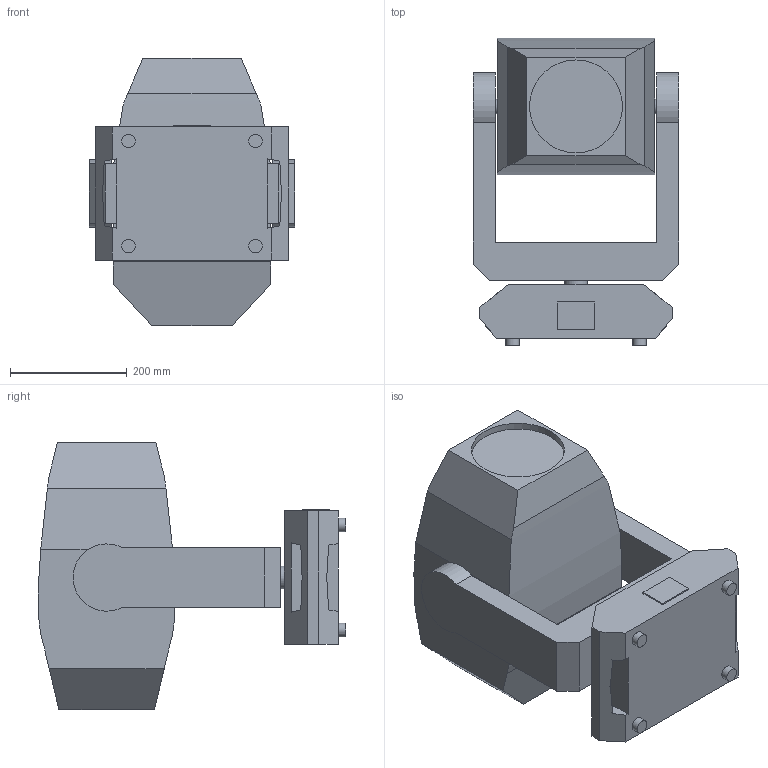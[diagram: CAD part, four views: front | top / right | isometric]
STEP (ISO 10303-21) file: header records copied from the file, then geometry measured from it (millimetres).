
FILE_DESCRIPTION(/* description */ ('Unknown'),/* implementation_level */ '2;1');
FILE_NAME(/* name */ 'MAVERICKFORCEXPROFILE_90.stp',/* time_stamp */ '2025-06-23T16:23:59-04:00',/* author */ ('chenry'),/* organization */ (''),/* preprocessor_version */ 'ST-DEVELOPER v20',/* originating_system */ 'Autodesk Inventor 2024',/* authorisation */ '');
FILE_SCHEMA (('AUTOMOTIVE_DESIGN { 1 0 10303 214 3 1 1 }'));
Length unit declared in the file: millimetre
Products named in the file (4): M-350 LED PROFILE-01; bASE; aRM; hEAD
Assembly tree (3 placements, depth 2):
  M-350 LED PROFILE-01
    bASE
    aRM
    hEAD
Bounding box: 351.47 x 525.96 x 457.15 mm (x, y, z)
Volume: 33857713.5 mm3; surface area: 1034094.3 mm2
Topology: 3 solids, 3 shells, 79 faces, 192 edges, 128 vertices
Faces by surface type: plane 61, cylinder 14, bspline 4
Full cylindrical faces by diameter (mm): 23.335 x4, 25.036 x2, 26 x2, 39 x1, 158.955 x1
Entity records: 2678 total; most frequent: CARTESIAN_POINT 642, ORIENTED_EDGE 384, DIRECTION 376, EDGE_CURVE 192, LINE 148, VECTOR 148, VERTEX_POINT 128, AXIS2_PLACEMENT_3D 114
